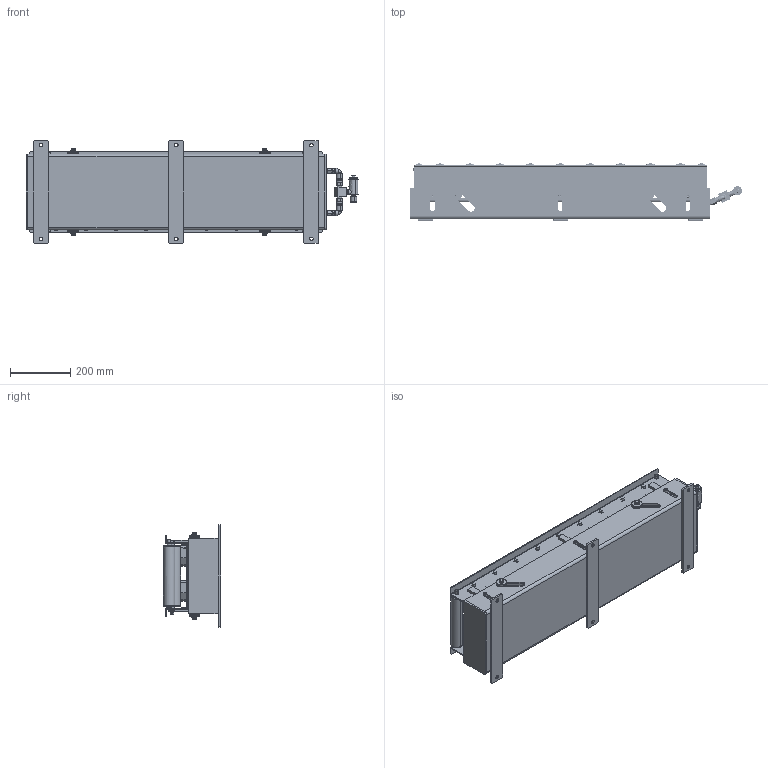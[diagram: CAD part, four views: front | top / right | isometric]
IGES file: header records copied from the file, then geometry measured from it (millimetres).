
Start section: 3D InterOp IGES (Version 21 0 2), Spatial Corp. Copyright (c) 1999-2007.
Global section: file name: ALR-PRL-571000D_H.igs; native system: Spatial Corp.; preprocessor: 3D InterOp GENERIC/IGES 3.0; author: Noname; organization: Noname; date: 20130411.110300; units: millimetre
Bounding box: 1104.98 x 190.05 x 342 mm (x, y, z)
Surface area: 3288090.2 mm2 (no closed solid volume)
Topology: 0 solids, 0 shells, 1771 faces, 10438 edges, 10386 vertices
Faces by surface type: bspline 1771
